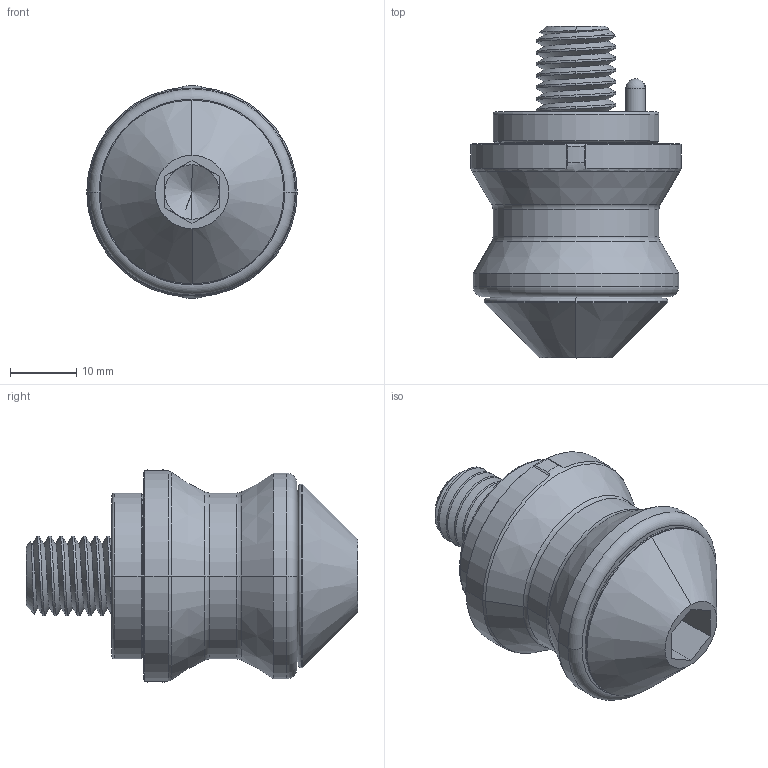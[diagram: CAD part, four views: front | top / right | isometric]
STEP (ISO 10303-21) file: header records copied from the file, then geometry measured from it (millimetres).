
FILE_DESCRIPTION (( 'STEP AP214' ), '1' );
FILE_NAME ('DXJT-20.STEP', '2022-02-19T01:49:55', ( '' ), ( '' ), 'SwSTEP 2.0', 'SolidWorks 2018', '' );
FILE_SCHEMA (( 'AUTOMOTIVE_DESIGN' ));
Length unit declared in the file: millimetre
Products named in the file (4): 隅砃嶺間; DXJT-20; 嶺間嘐隅蹟佪; 3mm隅弇种
Assembly tree (3 placements, depth 2):
  DXJT-20
    隅砃嶺間
    3mm隅弇种
    嶺間嘐隅蹟佪
Bounding box: 31.7 x 50 x 31.99 mm (x, y, z)
Volume: 20672.3 mm3; surface area: 8642 mm2
Topology: 3 solids, 3 shells, 185 faces, 453 edges, 281 vertices
Faces by surface type: plane 70, cylinder 50, cone 26, torus 20, bspline 17, sphere 2
Entity records: 9035 total; most frequent: CARTESIAN_POINT 4768, ORIENTED_EDGE 890, DIRECTION 815, EDGE_CURVE 445, AXIS2_PLACEMENT_3D 287, VERTEX_POINT 279, VECTOR 241, LINE 241
